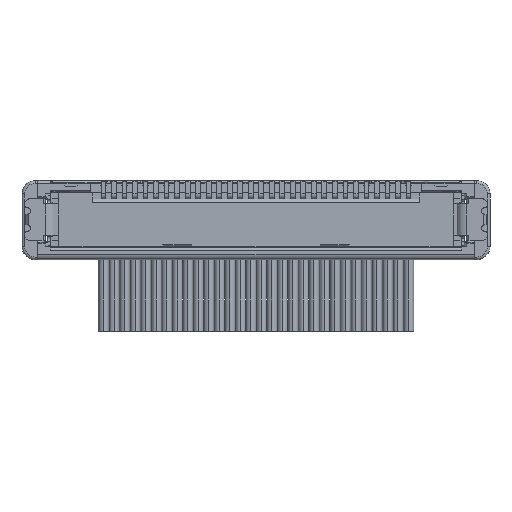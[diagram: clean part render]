
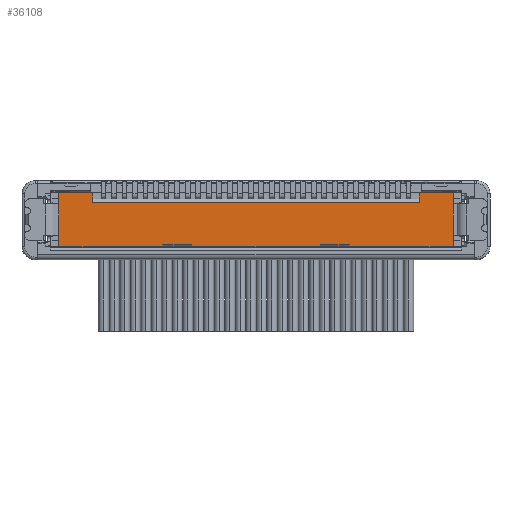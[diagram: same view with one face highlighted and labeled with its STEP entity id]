
A CAD part, front view. The second image highlights one B-rep face of the part: STEP entity #36108.
In plain terms, the highlighted planar face has unit normal (0, -1, 0).
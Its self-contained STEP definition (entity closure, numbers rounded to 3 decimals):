
#23924 = CARTESIAN_POINT ( 'NONE',  ( 7.5, 0., -1.025 ) ) ;
#23966 = CARTESIAN_POINT ( 'NONE',  ( 7.5, 0., 1.025 ) ) ;
#24214 = DIRECTION ( 'NONE',  ( 0., 0., 1. ) ) ;
#24215 = VECTOR ( 'NONE', #24214, 1000. ) ;
#24217 = LINE ( 'NONE', #24228, #24215 ) ;
#24228 = CARTESIAN_POINT ( 'NONE',  ( 7.5, 0., -0.6 ) ) ;
#24260 = CARTESIAN_POINT ( 'NONE',  ( -6.2, 0., 1.025 ) ) ;
#26803 = DIRECTION ( 'NONE',  ( 1., 0., 0. ) ) ;
#26804 = VECTOR ( 'NONE', #26803, 1000. ) ;
#26805 = CARTESIAN_POINT ( 'NONE',  ( 0., 0., 1.025 ) ) ;
#26816 = LINE ( 'NONE', #26805, #26804 ) ;
#26833 = DIRECTION ( 'NONE',  ( 0., 0., 1. ) ) ;
#26834 = VECTOR ( 'NONE', #26833, 1000. ) ;
#26846 = LINE ( 'NONE', #26848, #26834 ) ;
#26848 = CARTESIAN_POINT ( 'NONE',  ( -7.5, 0., -0.6 ) ) ;
#26935 = CARTESIAN_POINT ( 'NONE',  ( 6.364, 0., 0.645 ) ) ;
#26945 = DIRECTION ( 'NONE',  ( -1., 0., 0. ) ) ;
#26946 = VECTOR ( 'NONE', #26945, 1000. ) ;
#26948 = LINE ( 'NONE', #26952, #26946 ) ;
#26952 = CARTESIAN_POINT ( 'NONE',  ( 0., 0., 1.025 ) ) ;
#26985 = DIRECTION ( 'NONE',  ( -1., 0., 0. ) ) ;
#27164 = VECTOR ( 'NONE', #26985, 1000. ) ;
#27168 = LINE ( 'NONE', #26935, #27164 ) ;
#27680 = CARTESIAN_POINT ( 'NONE',  ( 6.2, 0., 1.025 ) ) ;
#27848 = CARTESIAN_POINT ( 'NONE',  ( 6.2, 0., 0.645 ) ) ;
#27886 = CARTESIAN_POINT ( 'NONE',  ( -7.5, 0., -1.025 ) ) ;
#28270 = CARTESIAN_POINT ( 'NONE',  ( -7.5, 0., 1.025 ) ) ;
#28627 = CARTESIAN_POINT ( 'NONE',  ( -6.2, 0., 0.645 ) ) ;
#30429 = DIRECTION ( 'NONE',  ( 0., 0., 1. ) ) ;
#30431 = VECTOR ( 'NONE', #30429, 1000. ) ;
#30575 = CARTESIAN_POINT ( 'NONE',  ( 6.2, 0., 1.025 ) ) ;
#30576 = LINE ( 'NONE', #30575, #30431 ) ;
#35911 = ORIENTED_EDGE ( 'NONE', *, *, #67101, .F. ) ;
#35914 = ORIENTED_EDGE ( 'NONE', *, *, #67084, .F. ) ;
#35920 = ORIENTED_EDGE ( 'NONE', *, *, #67927, .F. ) ;
#35922 = VERTEX_POINT ( 'NONE', #61843 ) ;
#35926 = VERTEX_POINT ( 'NONE', #61979 ) ;
#35927 = ORIENTED_EDGE ( 'NONE', *, *, #36189, .T. ) ;
#35929 = ORIENTED_EDGE ( 'NONE', *, *, #36267, .T. ) ;
#35932 = ORIENTED_EDGE ( 'NONE', *, *, #67164, .T. ) ;
#35986 = ORIENTED_EDGE ( 'NONE', *, *, #66927, .T. ) ;
#35989 = ORIENTED_EDGE ( 'NONE', *, *, #67169, .T. ) ;
#36019 = VERTEX_POINT ( 'NONE', #61828 ) ;
#36028 = ORIENTED_EDGE ( 'NONE', *, *, #36172, .F. ) ;
#36031 = EDGE_CURVE ( 'NONE', #36110, #36019, #62030, .T. ) ;
#36100 = EDGE_LOOP ( 'NONE', ( #36193, #35986, #35911, #35920, #35989, #35927, #35932, #35914, #36265, #35929, #36308, #36144, #36165, #36142, #36028, #36160 ) ) ;
#36102 = VERTEX_POINT ( 'NONE', #61881 ) ;
#36108 = ADVANCED_FACE ( 'NONE', ( #61991 ), #61994, .F. ) ;
#36110 = VERTEX_POINT ( 'NONE', #61992 ) ;
#36140 = EDGE_CURVE ( 'NONE', #35926, #36270, #61239, .T. ) ;
#36142 = ORIENTED_EDGE ( 'NONE', *, *, #36170, .T. ) ;
#36144 = ORIENTED_EDGE ( 'NONE', *, *, #36146, .F. ) ;
#36146 = EDGE_CURVE ( 'NONE', #36102, #36270, #61225, .T. ) ;
#36152 = VERTEX_POINT ( 'NONE', #61930 ) ;
#36156 = EDGE_CURVE ( 'NONE', #36102, #36152, #61914, .T. ) ;
#36160 = ORIENTED_EDGE ( 'NONE', *, *, #36031, .F. ) ;
#36165 = ORIENTED_EDGE ( 'NONE', *, *, #36156, .T. ) ;
#36170 = EDGE_CURVE ( 'NONE', #36152, #36273, #62114, .T. ) ;
#36172 = EDGE_CURVE ( 'NONE', #36019, #36273, #62109, .T. ) ;
#36189 = EDGE_CURVE ( 'NONE', #67663, #66756, #62309, .T. ) ;
#36193 = ORIENTED_EDGE ( 'NONE', *, *, #36195, .T. ) ;
#36195 = EDGE_CURVE ( 'NONE', #36110, #66615, #62306, .T. ) ;
#36265 = ORIENTED_EDGE ( 'NONE', *, *, #36302, .F. ) ;
#36267 = EDGE_CURVE ( 'NONE', #35922, #35926, #62223, .T. ) ;
#36270 = VERTEX_POINT ( 'NONE', #62219 ) ;
#36273 = VERTEX_POINT ( 'NONE', #62224 ) ;
#36302 = EDGE_CURVE ( 'NONE', #35922, #67257, #62131, .T. ) ;
#36308 = ORIENTED_EDGE ( 'NONE', *, *, #36140, .T. ) ;
#61225 = LINE ( 'NONE', #61255, #61556 ) ;
#61226 = DIRECTION ( 'NONE',  ( 1., 0., 0. ) ) ;
#61230 = CARTESIAN_POINT ( 'NONE',  ( -3.55, 0., -0.965 ) ) ;
#61238 = VECTOR ( 'NONE', #61226, 1000. ) ;
#61239 = LINE ( 'NONE', #61230, #61238 ) ;
#61255 = CARTESIAN_POINT ( 'NONE',  ( -2.45, 0., -1.025 ) ) ;
#61556 = VECTOR ( 'NONE', #61568, 1000. ) ;
#61568 = DIRECTION ( 'NONE',  ( 0., 0., 1. ) ) ;
#61828 = CARTESIAN_POINT ( 'NONE',  ( 3.55, 0., -0.965 ) ) ;
#61843 = CARTESIAN_POINT ( 'NONE',  ( -3.55, 0., -1.025 ) ) ;
#61881 = CARTESIAN_POINT ( 'NONE',  ( -2.45, 0., -1.025 ) ) ;
#61903 = DIRECTION ( 'NONE',  ( 1., 0., 0. ) ) ;
#61904 = CARTESIAN_POINT ( 'NONE',  ( 0., 0., -1.025 ) ) ;
#61908 = VECTOR ( 'NONE', #61903, 1000. ) ;
#61914 = LINE ( 'NONE', #61904, #61908 ) ;
#61930 = CARTESIAN_POINT ( 'NONE',  ( 2.45, 0., -1.025 ) ) ;
#61931 = DIRECTION ( 'NONE',  ( -1., 0., 0. ) ) ;
#61932 = DIRECTION ( 'NONE',  ( 0., 1., 0. ) ) ;
#61933 = CARTESIAN_POINT ( 'NONE',  ( 0., 0., 1.025 ) ) ;
#61979 = CARTESIAN_POINT ( 'NONE',  ( -3.55, 0., -0.965 ) ) ;
#61991 = FACE_OUTER_BOUND ( 'NONE', #36100, .T. ) ;
#61992 = CARTESIAN_POINT ( 'NONE',  ( 3.55, 0., -1.025 ) ) ;
#61993 = AXIS2_PLACEMENT_3D ( 'NONE', #61933, #61932, #61931 ) ;
#61994 = PLANE ( 'NONE',  #61993 ) ;
#62026 = DIRECTION ( 'NONE',  ( 0., 0., 1. ) ) ;
#62027 = VECTOR ( 'NONE', #62026, 1000. ) ;
#62028 = CARTESIAN_POINT ( 'NONE',  ( 3.55, 0., -1.025 ) ) ;
#62030 = LINE ( 'NONE', #62028, #62027 ) ;
#62050 = CARTESIAN_POINT ( 'NONE',  ( -3.55, 0., -1.025 ) ) ;
#62105 = DIRECTION ( 'NONE',  ( -1., 0., 0. ) ) ;
#62106 = VECTOR ( 'NONE', #62105, 1000. ) ;
#62107 = CARTESIAN_POINT ( 'NONE',  ( 3.55, 0., -0.965 ) ) ;
#62109 = LINE ( 'NONE', #62107, #62106 ) ;
#62110 = DIRECTION ( 'NONE',  ( 0., 0., 1. ) ) ;
#62111 = VECTOR ( 'NONE', #62110, 1000. ) ;
#62114 = LINE ( 'NONE', #62121, #62111 ) ;
#62121 = CARTESIAN_POINT ( 'NONE',  ( 2.45, 0., -1.025 ) ) ;
#62129 = DIRECTION ( 'NONE',  ( -1., 0., 0. ) ) ;
#62130 = VECTOR ( 'NONE', #62129, 1000. ) ;
#62131 = LINE ( 'NONE', #62137, #62130 ) ;
#62137 = CARTESIAN_POINT ( 'NONE',  ( 0., 0., -1.025 ) ) ;
#62216 = DIRECTION ( 'NONE',  ( 0., 0., 1. ) ) ;
#62217 = VECTOR ( 'NONE', #62216, 1000. ) ;
#62219 = CARTESIAN_POINT ( 'NONE',  ( -2.45, 0., -0.965 ) ) ;
#62223 = LINE ( 'NONE', #62050, #62217 ) ;
#62224 = CARTESIAN_POINT ( 'NONE',  ( 2.45, 0., -0.965 ) ) ;
#62302 = DIRECTION ( 'NONE',  ( 1., 0., 0. ) ) ;
#62303 = VECTOR ( 'NONE', #62302, 1000. ) ;
#62304 = CARTESIAN_POINT ( 'NONE',  ( 0., 0., -1.025 ) ) ;
#62306 = LINE ( 'NONE', #62304, #62303 ) ;
#62307 = DIRECTION ( 'NONE',  ( 0., 0., 1. ) ) ;
#62308 = VECTOR ( 'NONE', #62307, 1000. ) ;
#62309 = LINE ( 'NONE', #62314, #62308 ) ;
#62314 = CARTESIAN_POINT ( 'NONE',  ( -6.2, 0., 1.025 ) ) ;
#66600 = VERTEX_POINT ( 'NONE', #23966 ) ;
#66615 = VERTEX_POINT ( 'NONE', #23924 ) ;
#66756 = VERTEX_POINT ( 'NONE', #24260 ) ;
#66927 = EDGE_CURVE ( 'NONE', #66615, #66600, #24217, .T. ) ;
#67084 = EDGE_CURVE ( 'NONE', #67257, #67275, #26846, .T. ) ;
#67101 = EDGE_CURVE ( 'NONE', #67303, #66600, #26816, .T. ) ;
#67164 = EDGE_CURVE ( 'NONE', #66756, #67275, #26948, .T. ) ;
#67169 = EDGE_CURVE ( 'NONE', #67225, #67663, #27168, .T. ) ;
#67225 = VERTEX_POINT ( 'NONE', #27848 ) ;
#67257 = VERTEX_POINT ( 'NONE', #27886 ) ;
#67275 = VERTEX_POINT ( 'NONE', #28270 ) ;
#67303 = VERTEX_POINT ( 'NONE', #27680 ) ;
#67663 = VERTEX_POINT ( 'NONE', #28627 ) ;
#67927 = EDGE_CURVE ( 'NONE', #67225, #67303, #30576, .T. ) ;
